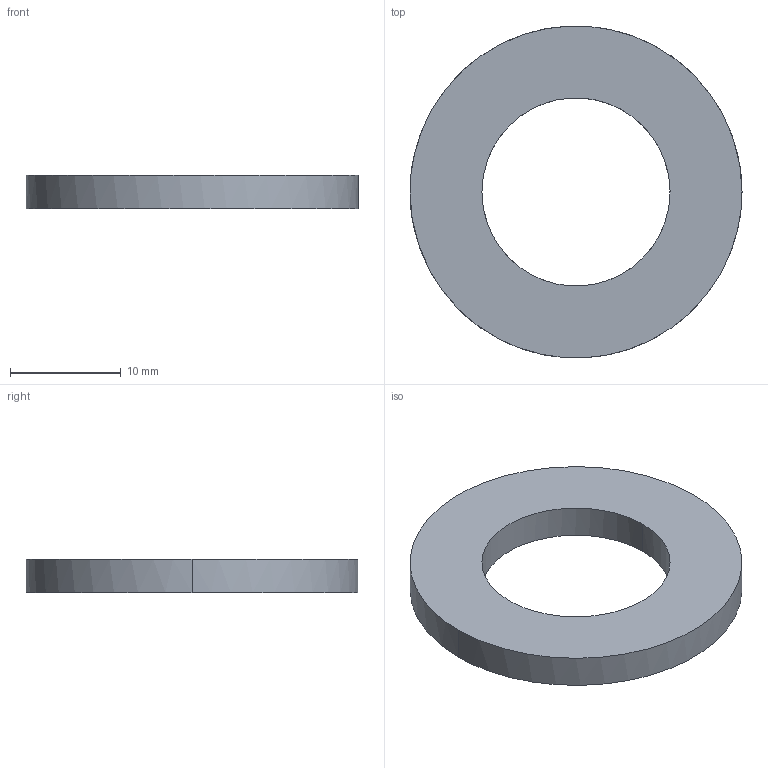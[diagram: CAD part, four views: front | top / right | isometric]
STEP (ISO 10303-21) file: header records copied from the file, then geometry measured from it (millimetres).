
FILE_DESCRIPTION(/* description */ (''),/* implementation_level */ '2;1');
FILE_NAME(/* name */ 'Washer 2',/* time_stamp */ '2023-04-20T20:13:01-04:00',/* author */ (''),/* organization */ (''),/* preprocessor_version */ 'ST-DEVELOPER v15',/* originating_system */ '',/* authorisation */ '');
FILE_SCHEMA (('CONFIG_CONTROL_DESIGN'));
Length unit declared in the file: millimetre
Products named in the file (1): Document
Bounding box: 30 x 29.96 x 3 mm (x, y, z)
Volume: 1443.2 mm3; surface area: 1404.7 mm2
Topology: 1 solids, 1 shells, 7 faces, 13 edges, 9 vertices
Faces by surface type: bspline 7
Entity records: 461 total; most frequent: CARTESIAN_POINT 210, ORIENTED_EDGE 26, PCURVE 26, DEFINITIONAL_REPRESENTATION 26, B_SPLINE_CURVE_WITH_KNOTS 16, SURFACE_CURVE 13, EDGE_CURVE 13, EDGE_LOOP 10
